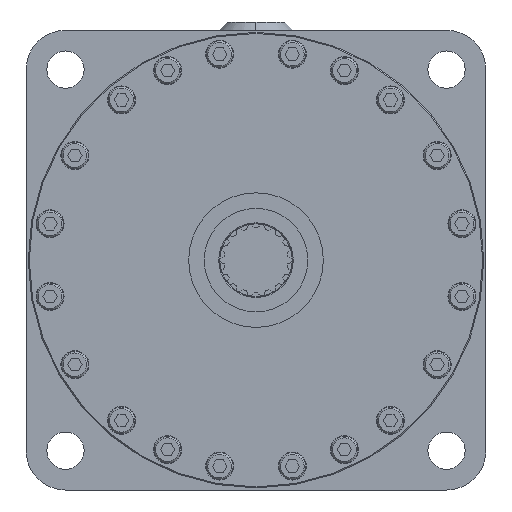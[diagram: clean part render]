
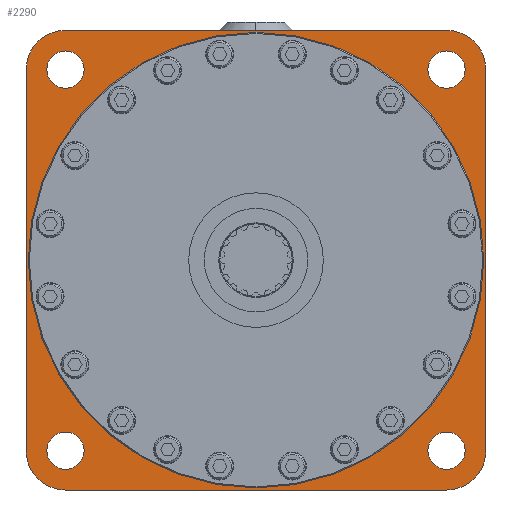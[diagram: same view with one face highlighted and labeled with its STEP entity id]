
A CAD part, left-side view. The second image highlights one B-rep face of the part: STEP entity #2290.
In plain terms, the highlighted planar face has unit normal (-1, 0, 0) as drawn and (0, 0, 1) by its records, which use the part's own axes.
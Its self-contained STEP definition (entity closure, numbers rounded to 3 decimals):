
#60=CARTESIAN_POINT('',(92.,-92.,19.5));
#70=DIRECTION('',(0.,0.,1.));
#80=DIRECTION('',(1.,0.,0.));
#90=AXIS2_PLACEMENT_3D('',#60,#70,#80);
#100=CIRCLE('',#90,19.);
#110=CARTESIAN_POINT('',(92.,-111.,19.5));
#120=VERTEX_POINT('',#110);
#130=CARTESIAN_POINT('',(111.,-92.,19.5));
#140=VERTEX_POINT('',#130);
#150=EDGE_CURVE('',#120,#140,#100,.T.);
#550=CARTESIAN_POINT('',(92.,92.,19.5));
#560=DIRECTION('',(0.,0.,-1.));
#570=DIRECTION('',(1.,0.,0.));
#580=AXIS2_PLACEMENT_3D('',#550,#560,#570);
#590=CIRCLE('',#580,19.);
#600=CARTESIAN_POINT('',(92.,111.,19.5));
#610=VERTEX_POINT('',#600);
#620=CARTESIAN_POINT('',(111.,92.,19.5));
#630=VERTEX_POINT('',#620);
#640=EDGE_CURVE('',#610,#630,#590,.T.);
#990=CARTESIAN_POINT('',(-137.5,0.,19.5));
#1000=DIRECTION('',(0.,0.,-1.));
#1010=DIRECTION('',(1.,0.,0.));
#1020=AXIS2_PLACEMENT_3D('',#990,#1000,#1010);
#1030=PLANE('',#1020);
#1040=CARTESIAN_POINT('',(0.,0.,19.5));
#1050=DIRECTION('',(0.,0.,-1.));
#1060=DIRECTION('',(-1.,0.,0.));
#1070=AXIS2_PLACEMENT_3D('',#1040,#1050,#1060);
#1080=CIRCLE('',#1070,110.);
#1090=CARTESIAN_POINT('',(-110.,0.,19.5));
#1100=VERTEX_POINT('',#1090);
#1110=CARTESIAN_POINT('',(110.,0.,19.5));
#1120=VERTEX_POINT('',#1110);
#1130=EDGE_CURVE('',#1100,#1120,#1080,.T.);
#1140=ORIENTED_EDGE('',*,*,#1130,.T.);
#1150=EDGE_CURVE('',#1120,#1100,#1080,.T.);
#1160=ORIENTED_EDGE('',*,*,#1150,.T.);
#1170=EDGE_LOOP('',(#1160,#1140));
#1180=FACE_BOUND('',#1170,.T.);
#1190=CARTESIAN_POINT('',(92.,-92.,19.5));
#1200=DIRECTION('',(0.,0.,1.));
#1210=DIRECTION('',(0.,1.,0.));
#1220=AXIS2_PLACEMENT_3D('',#1190,#1200,#1210);
#1230=CIRCLE('',#1220,9.);
#1240=CARTESIAN_POINT('',(92.,-83.,19.5));
#1250=VERTEX_POINT('',#1240);
#1260=CARTESIAN_POINT('',(92.,-101.,19.5));
#1270=VERTEX_POINT('',#1260);
#1280=EDGE_CURVE('',#1250,#1270,#1230,.T.);
#1290=ORIENTED_EDGE('',*,*,#1280,.F.);
#1300=EDGE_CURVE('',#1270,#1250,#1230,.T.);
#1310=ORIENTED_EDGE('',*,*,#1300,.F.);
#1320=EDGE_LOOP('',(#1310,#1290));
#1330=FACE_BOUND('',#1320,.T.);
#1340=CARTESIAN_POINT('',(92.,92.,19.5));
#1350=DIRECTION('',(0.,0.,1.));
#1360=DIRECTION('',(-1.,0.,0.));
#1370=AXIS2_PLACEMENT_3D('',#1340,#1350,#1360);
#1380=CIRCLE('',#1370,9.);
#1390=CARTESIAN_POINT('',(83.,92.,19.5));
#1400=VERTEX_POINT('',#1390);
#1410=CARTESIAN_POINT('',(101.,92.,19.5));
#1420=VERTEX_POINT('',#1410);
#1430=EDGE_CURVE('',#1400,#1420,#1380,.T.);
#1440=ORIENTED_EDGE('',*,*,#1430,.F.);
#1450=EDGE_CURVE('',#1420,#1400,#1380,.T.);
#1460=ORIENTED_EDGE('',*,*,#1450,.F.);
#1470=EDGE_LOOP('',(#1460,#1440));
#1480=FACE_BOUND('',#1470,.T.);
#1490=CARTESIAN_POINT('',(-92.,92.,19.5));
#1500=DIRECTION('',(0.,0.,1.));
#1510=DIRECTION('',(0.,-1.,0.));
#1520=AXIS2_PLACEMENT_3D('',#1490,#1500,#1510);
#1530=CIRCLE('',#1520,9.);
#1540=CARTESIAN_POINT('',(-92.,83.,19.5));
#1550=VERTEX_POINT('',#1540);
#1560=CARTESIAN_POINT('',(-92.,101.,19.5));
#1570=VERTEX_POINT('',#1560);
#1580=EDGE_CURVE('',#1550,#1570,#1530,.T.);
#1590=ORIENTED_EDGE('',*,*,#1580,.F.);
#1600=EDGE_CURVE('',#1570,#1550,#1530,.T.);
#1610=ORIENTED_EDGE('',*,*,#1600,.F.);
#1620=EDGE_LOOP('',(#1610,#1590));
#1630=FACE_BOUND('',#1620,.T.);
#1640=CARTESIAN_POINT('',(-92.,-92.,19.5));
#1650=DIRECTION('',(0.,0.,1.));
#1660=DIRECTION('',(1.,0.,0.));
#1670=AXIS2_PLACEMENT_3D('',#1640,#1650,#1660);
#1680=CIRCLE('',#1670,9.);
#1690=CARTESIAN_POINT('',(-83.,-92.,19.5));
#1700=VERTEX_POINT('',#1690);
#1710=CARTESIAN_POINT('',(-101.,-92.,19.5));
#1720=VERTEX_POINT('',#1710);
#1730=EDGE_CURVE('',#1700,#1720,#1680,.T.);
#1740=ORIENTED_EDGE('',*,*,#1730,.F.);
#1750=EDGE_CURVE('',#1720,#1700,#1680,.T.);
#1760=ORIENTED_EDGE('',*,*,#1750,.F.);
#1770=EDGE_LOOP('',(#1760,#1740));
#1780=FACE_BOUND('',#1770,.T.);
#1790=CARTESIAN_POINT('',(-92.,92.,19.5));
#1800=DIRECTION('',(0.,0.,1.));
#1810=DIRECTION('',(-1.,0.,0.));
#1820=AXIS2_PLACEMENT_3D('',#1790,#1800,#1810);
#1830=CIRCLE('',#1820,19.);
#1840=CARTESIAN_POINT('',(-92.,111.,19.5));
#1850=VERTEX_POINT('',#1840);
#1860=CARTESIAN_POINT('',(-111.,92.,19.5));
#1870=VERTEX_POINT('',#1860);
#1880=EDGE_CURVE('',#1850,#1870,#1830,.T.);
#1890=ORIENTED_EDGE('',*,*,#1880,.T.);
#1900=CARTESIAN_POINT('',(0.,111.,19.5));
#1910=DIRECTION('',(1.,0.,0.));
#1920=VECTOR('',#1910,1.);
#1930=LINE('',#1900,#1920);
#1940=EDGE_CURVE('',#1850,#610,#1930,.T.);
#1950=ORIENTED_EDGE('',*,*,#1940,.F.);
#1960=ORIENTED_EDGE('',*,*,#640,.F.);
#1970=CARTESIAN_POINT('',(111.,-92.,19.5));
#1980=DIRECTION('',(0.,1.,0.));
#1990=VECTOR('',#1980,1.);
#2000=LINE('',#1970,#1990);
#2010=EDGE_CURVE('',#140,#630,#2000,.T.);
#2020=ORIENTED_EDGE('',*,*,#2010,.T.);
#2030=ORIENTED_EDGE('',*,*,#150,.T.);
#2040=CARTESIAN_POINT('',(0.,-111.,19.5));
#2050=DIRECTION('',(1.,0.,0.));
#2060=VECTOR('',#2050,1.);
#2070=LINE('',#2040,#2060);
#2080=CARTESIAN_POINT('',(-92.,-111.,19.5));
#2090=VERTEX_POINT('',#2080);
#2100=EDGE_CURVE('',#2090,#120,#2070,.T.);
#2110=ORIENTED_EDGE('',*,*,#2100,.T.);
#2120=CARTESIAN_POINT('',(-92.,-92.,19.5));
#2130=DIRECTION('',(0.,0.,-1.));
#2140=DIRECTION('',(-1.,0.,0.));
#2150=AXIS2_PLACEMENT_3D('',#2120,#2130,#2140);
#2160=CIRCLE('',#2150,19.);
#2170=CARTESIAN_POINT('',(-111.,-92.,19.5));
#2180=VERTEX_POINT('',#2170);
#2190=EDGE_CURVE('',#2090,#2180,#2160,.T.);
#2200=ORIENTED_EDGE('',*,*,#2190,.F.);
#2210=CARTESIAN_POINT('',(-111.,0.,19.5));
#2220=DIRECTION('',(0.,1.,0.));
#2230=VECTOR('',#2220,1.);
#2240=LINE('',#2210,#2230);
#2250=EDGE_CURVE('',#2180,#1870,#2240,.T.);
#2260=ORIENTED_EDGE('',*,*,#2250,.F.);
#2270=EDGE_LOOP('',(#2260,#2200,#2110,#2030,#2020,#1960,#1950,#1890));
#2280=FACE_OUTER_BOUND('',#2270,.T.);
#2290=ADVANCED_FACE('',(#1180,#1330,#1480,#1630,#1780,#2280),#1030,.F.);
